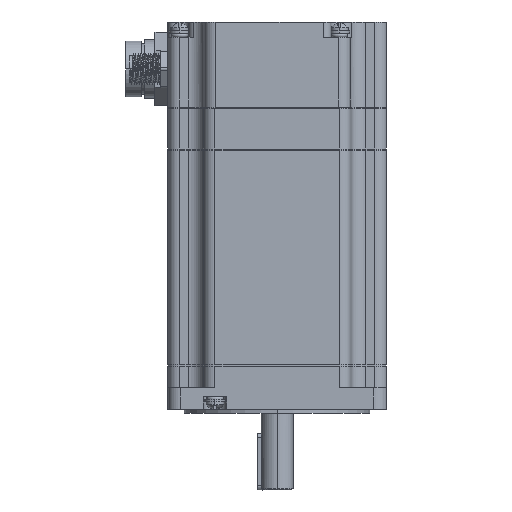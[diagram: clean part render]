
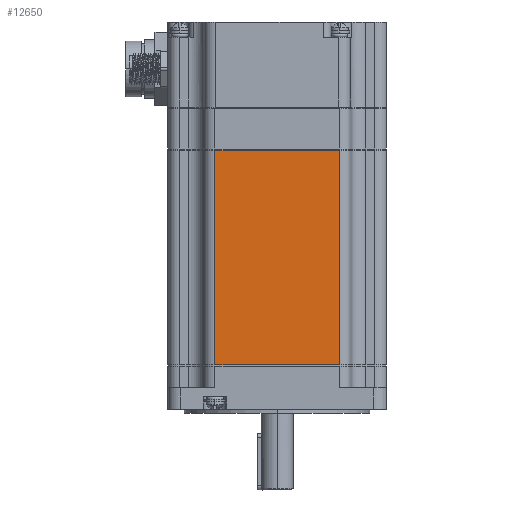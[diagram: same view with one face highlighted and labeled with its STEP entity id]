
A CAD part, left-side view. The second image highlights one B-rep face of the part: STEP entity #12650.
In plain terms, the highlighted planar face has unit normal (-1, 0, 0).
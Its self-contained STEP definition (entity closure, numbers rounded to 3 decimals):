
#7688=DIRECTION('',(0.,0.,1.));
#7689=VECTOR('',#7688,84.5);
#7690=CARTESIAN_POINT('',(-43.,-24.47,0.));
#7691=LINE('',#7690,#7689);
#7696=DIRECTION('',(0.,1.,0.));
#7697=VECTOR('',#7696,48.94);
#7698=CARTESIAN_POINT('',(-43.,-24.47,0.));
#7699=LINE('',#7698,#7697);
#7704=DIRECTION('',(0.,0.,-1.));
#7705=VECTOR('',#7704,84.5);
#7706=CARTESIAN_POINT('',(-43.,24.47,84.5));
#7707=LINE('',#7706,#7705);
#7810=DIRECTION('',(0.,1.,0.));
#7811=VECTOR('',#7810,48.94);
#7812=CARTESIAN_POINT('',(-43.,-24.47,84.5));
#7813=LINE('',#7812,#7811);
#10386=CARTESIAN_POINT('',(-43.,24.47,0.));
#10387=VERTEX_POINT('',#10386);
#10388=CARTESIAN_POINT('',(-43.,-24.47,0.));
#10389=VERTEX_POINT('',#10388);
#11070=CARTESIAN_POINT('',(-43.,-24.47,84.5));
#11071=VERTEX_POINT('',#11070);
#11072=CARTESIAN_POINT('',(-43.,24.47,84.5));
#11073=VERTEX_POINT('',#11072);
#12637=CARTESIAN_POINT('',(-43.,24.47,0.));
#12638=DIRECTION('',(-1.,0.,0.));
#12639=DIRECTION('',(0.,-1.,0.));
#12640=AXIS2_PLACEMENT_3D('',#12637,#12638,#12639);
#12641=PLANE('',#12640);
#12642=ORIENTED_EDGE('',*,*,#11703,.T.);
#12644=ORIENTED_EDGE('',*,*,#12643,.F.);
#12646=ORIENTED_EDGE('',*,*,#12645,.F.);
#12647=ORIENTED_EDGE('',*,*,#12629,.F.);
#12648=EDGE_LOOP('',(#12642,#12644,#12646,#12647));
#12649=FACE_OUTER_BOUND('',#12648,.F.);
#12650=ADVANCED_FACE('',(#12649),#12641,.T.);
#11703=EDGE_CURVE('',#10389,#10387,#7699,.T.);
#12629=EDGE_CURVE('',#10389,#11071,#7691,.T.);
#12643=EDGE_CURVE('',#11073,#10387,#7707,.T.);
#12645=EDGE_CURVE('',#11071,#11073,#7813,.T.);
